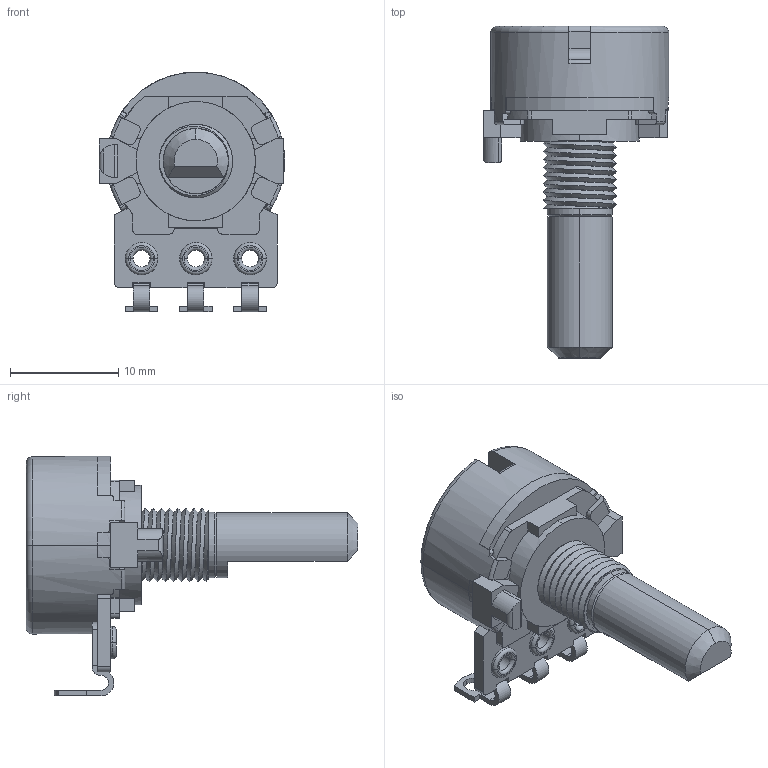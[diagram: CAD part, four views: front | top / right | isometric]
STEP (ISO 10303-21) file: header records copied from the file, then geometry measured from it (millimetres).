
FILE_DESCRIPTION (( 'STEP AP214' ), '1' );
FILE_NAME ('RK1631110TNP.STEP', '2012-02-21T01:45:14', ( '' ), ( '' ), 'SwSTEP 2.0', 'SolidWorks 2010', '' );
FILE_SCHEMA (( 'AUTOMOTIVE_DESIGN' ));
Length unit declared in the file: millimetre
Products named in the file (1): RK1631110TNP
Bounding box: 17.1 x 30.6 x 22.1 mm (x, y, z)
Volume: 2666.1 mm3; surface area: 1807.6 mm2
Topology: 1 solids, 1 shells, 328 faces, 944 edges, 615 vertices
Faces by surface type: plane 186, cylinder 112, torus 20, cone 8, bspline 2
Entity records: 15285 total; most frequent: CARTESIAN_POINT 2982, ORIENTED_EDGE 1888, DIRECTION 1804, EDGE_CURVE 944, VERTEX_POINT 615, AXIS2_PLACEMENT_3D 613, LINE 578, VECTOR 578
